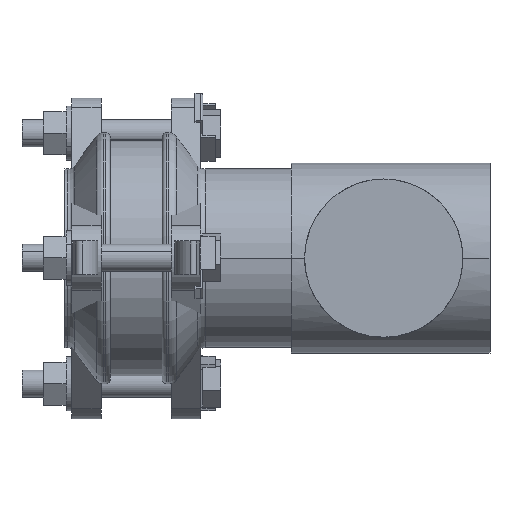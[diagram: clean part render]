
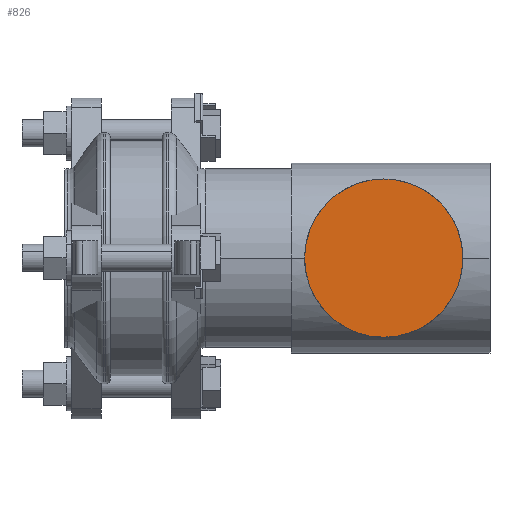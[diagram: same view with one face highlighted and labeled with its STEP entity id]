
A CAD part, top view. The second image highlights one B-rep face of the part: STEP entity #826.
In plain terms, the highlighted planar face has unit normal (0, 0, 1).
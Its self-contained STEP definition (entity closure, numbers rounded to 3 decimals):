
#826=ADVANCED_FACE('',(#1652),#1653,.F.);
#1652=FACE_OUTER_BOUND('',#2723,.T.);
#1653=PLANE('',#2724);
#2723=EDGE_LOOP('',(#4050,#4051));
#2724=AXIS2_PLACEMENT_3D('',#4052,#4053,#4054);
#4050=ORIENTED_EDGE('',*,*,#6121,.F.);
#4051=ORIENTED_EDGE('',*,*,#6122,.F.);
#4052=CARTESIAN_POINT('',(50.0,0.0,42.0));
#4053=DIRECTION('',(0.,0.0,-1.0));
#4054=DIRECTION('',(-1.0,0.0,0.));
#6121=EDGE_CURVE('',#7321,#7322,#7323,.T.);
#6122=EDGE_CURVE('',#7322,#7321,#7324,.T.);
#7321=VERTEX_POINT('',#8868);
#7322=VERTEX_POINT('',#8869);
#7323=CIRCLE('',#8870,35.0);
#7324=CIRCLE('',#8871,35.0);
#8868=CARTESIAN_POINT('',(15.0,0.0,42.0));
#8869=CARTESIAN_POINT('',(85.0,0.,42.0));
#8870=AXIS2_PLACEMENT_3D('',#10454,#10455,#10456);
#8871=AXIS2_PLACEMENT_3D('',#10457,#10458,#10459);
#10454=CARTESIAN_POINT('',(50.0,0.0,42.0));
#10455=DIRECTION('',(0.,0.0,-1.0));
#10456=DIRECTION('',(-1.0,0.0,0.));
#10457=CARTESIAN_POINT('',(50.0,0.0,42.0));
#10458=DIRECTION('',(0.,0.0,-1.0));
#10459=DIRECTION('',(-1.0,0.0,0.));
